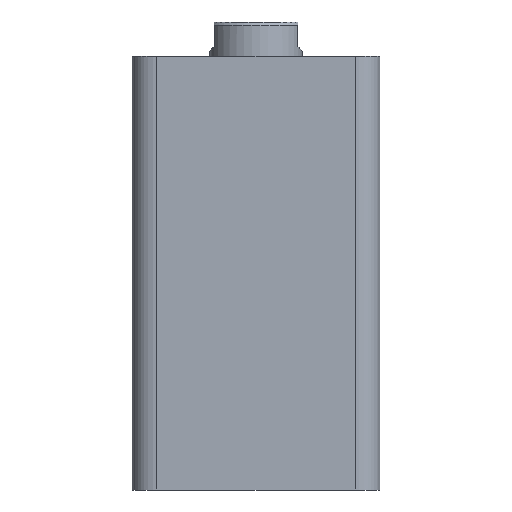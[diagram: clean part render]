
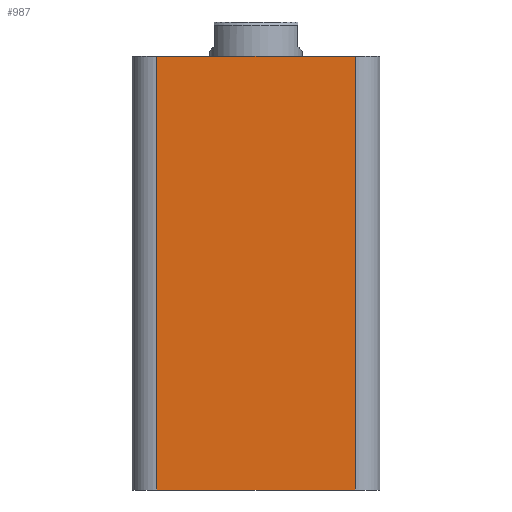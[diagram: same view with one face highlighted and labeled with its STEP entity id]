
A CAD part, front view. The second image highlights one B-rep face of the part: STEP entity #987.
In plain terms, the highlighted planar face has unit normal (0, -1, 0).
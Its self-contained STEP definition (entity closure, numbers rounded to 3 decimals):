
#59 = VECTOR ( 'NONE', #996, 1000. ) ;
#61 = VECTOR ( 'NONE', #1000, 1000. ) ;
#62 = LINE ( 'NONE', #998, #59 ) ;
#63 = VECTOR ( 'NONE', #1001, 1000. ) ;
#65 = VECTOR ( 'NONE', #1003, 1000. ) ;
#66 = LINE ( 'NONE', #1002, #63 ) ;
#68 = LINE ( 'NONE', #1004, #65 ) ;
#74 = LINE ( 'NONE', #1020, #61 ) ;
#348 = FACE_OUTER_BOUND ( 'NONE', #1267, .T. ) ;
#448 = ORIENTED_EDGE ( 'NONE', *, *, #1206, .T. ) ;
#474 = ORIENTED_EDGE ( 'NONE', *, *, #1204, .F. ) ;
#475 = ORIENTED_EDGE ( 'NONE', *, *, #1205, .T. ) ;
#478 = ORIENTED_EDGE ( 'NONE', *, *, #1207, .T. ) ;
#675 = VERTEX_POINT ( 'NONE', #1635 ) ;
#713 = VERTEX_POINT ( 'NONE', #1735 ) ;
#716 = VERTEX_POINT ( 'NONE', #1754 ) ;
#722 = VERTEX_POINT ( 'NONE', #1772 ) ;
#987 = ADVANCED_FACE ( 'NONE', ( #348 ), #1659, .F. ) ;
#996 = DIRECTION ( 'NONE',  ( 0., 0., 1. ) ) ;
#998 = CARTESIAN_POINT ( 'NONE',  ( 32., -40., 140. ) ) ;
#1000 = DIRECTION ( 'NONE',  ( 1., 0., 0. ) ) ;
#1001 = DIRECTION ( 'NONE',  ( 0., 0., -1. ) ) ;
#1002 = CARTESIAN_POINT ( 'NONE',  ( -32., -40., 140. ) ) ;
#1003 = DIRECTION ( 'NONE',  ( 1., 0., 0. ) ) ;
#1004 = CARTESIAN_POINT ( 'NONE',  ( -40., -40., 140. ) ) ;
#1020 = CARTESIAN_POINT ( 'NONE',  ( -40., -40., 0. ) ) ;
#1204 = EDGE_CURVE ( 'NONE', #675, #713, #68, .T. ) ;
#1205 = EDGE_CURVE ( 'NONE', #675, #716, #66, .T. ) ;
#1206 = EDGE_CURVE ( 'NONE', #716, #722, #74, .T. ) ;
#1207 = EDGE_CURVE ( 'NONE', #722, #713, #62, .T. ) ;
#1267 = EDGE_LOOP ( 'NONE', ( #474, #475, #448, #478 ) ) ;
#1635 = CARTESIAN_POINT ( 'NONE',  ( -32., -40., 140. ) ) ;
#1657 = CARTESIAN_POINT ( 'NONE',  ( -40., -40., 140. ) ) ;
#1659 = PLANE ( 'NONE',  #2389 ) ;
#1693 = DIRECTION ( 'NONE',  ( 0., 1., 0. ) ) ;
#1735 = CARTESIAN_POINT ( 'NONE',  ( 32., -40., 140. ) ) ;
#1754 = CARTESIAN_POINT ( 'NONE',  ( -32., -40., 0. ) ) ;
#1772 = CARTESIAN_POINT ( 'NONE',  ( 32., -40., 0. ) ) ;
#1812 = DIRECTION ( 'NONE',  ( 0., 0., 1. ) ) ;
#2389 = AXIS2_PLACEMENT_3D ( 'NONE', #1657, #1693, #1812 ) ;
